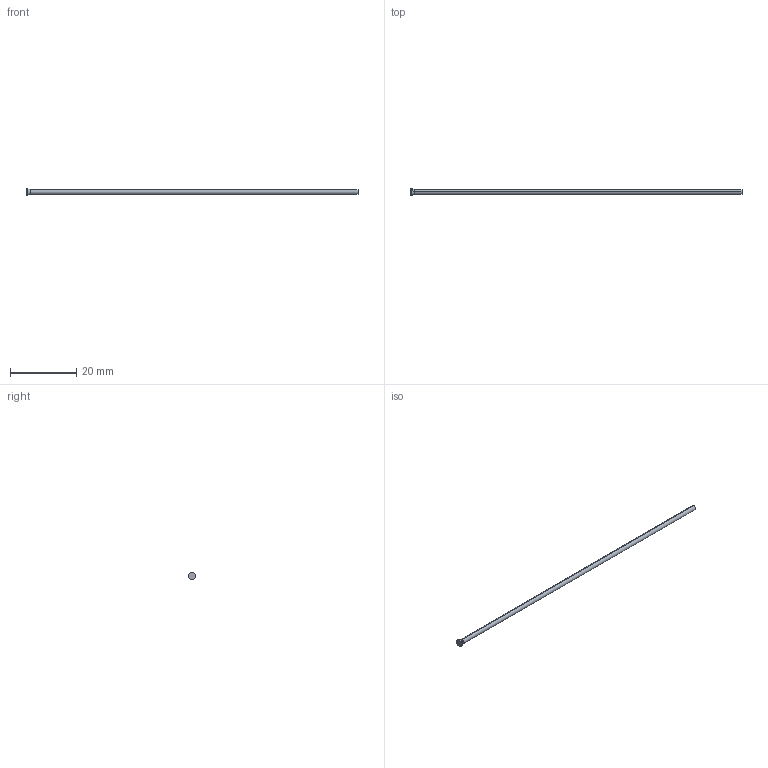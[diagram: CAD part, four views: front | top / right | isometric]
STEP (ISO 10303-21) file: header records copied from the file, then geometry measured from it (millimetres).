
FILE_DESCRIPTION (( 'STEP AP214' ), '1' );
FILE_NAME ('D-1,5x100.STEP', '2020-06-08T09:20:02', ( 'August' ), ( '' ), 'SwSTEP 2.0', 'SolidWorks 2018', '' );
FILE_SCHEMA (( 'AUTOMOTIVE_DESIGN' ));
Length unit declared in the file: millimetre
Products named in the file (1): D-1,5x100
Bounding box: 100 x 2.2 x 2.2 mm (x, y, z)
Volume: 178.3 mm3; surface area: 479.1 mm2
Topology: 1 solids, 1 shells, 10 faces, 18 edges, 10 vertices
Faces by surface type: cylinder 4, torus 2, cone 2, plane 2
Entity records: 280 total; most frequent: DIRECTION 52, CARTESIAN_POINT 39, ORIENTED_EDGE 36, AXIS2_PLACEMENT_3D 23, EDGE_CURVE 18, CIRCLE 12, EDGE_LOOP 10, ADVANCED_FACE 10
